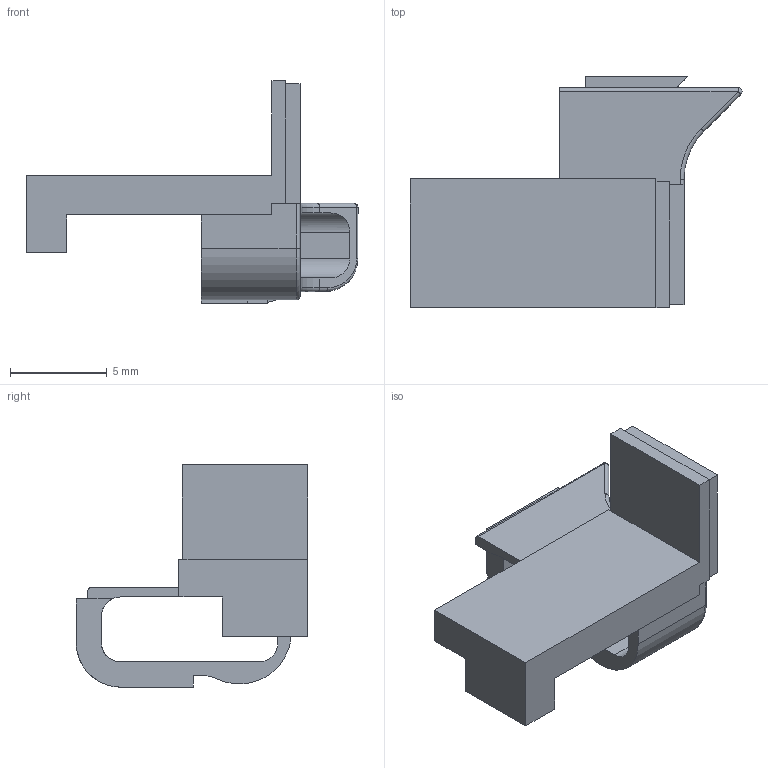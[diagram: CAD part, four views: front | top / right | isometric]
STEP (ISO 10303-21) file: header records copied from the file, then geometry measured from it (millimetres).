
FILE_DESCRIPTION(('STEP AP203'), '1');
FILE_NAME('lower', '2026-02-07T11:32:22', ('user'), (''), 'C3D Converter', 'C3D Toolkit', '');
FILE_SCHEMA(('CONFIG_CONTROL_DESIGN'));
Length unit declared in the file: millimetre
Bounding box: 17.16 x 11.97 x 11.49 mm (x, y, z)
Volume: 361.1 mm3; surface area: 675.8 mm2
Topology: 1 solids, 1 shells, 61 faces, 170 edges, 108 vertices
Faces by surface type: plane 38, cylinder 17, torus 4, bspline 1, sphere 1
Entity records: 2007 total; most frequent: CARTESIAN_POINT 395, ORIENTED_EDGE 338, DIRECTION 323, EDGE_CURVE 169, LINE 125, VECTOR 125, VERTEX_POINT 108, AXIS2_PLACEMENT_3D 99
